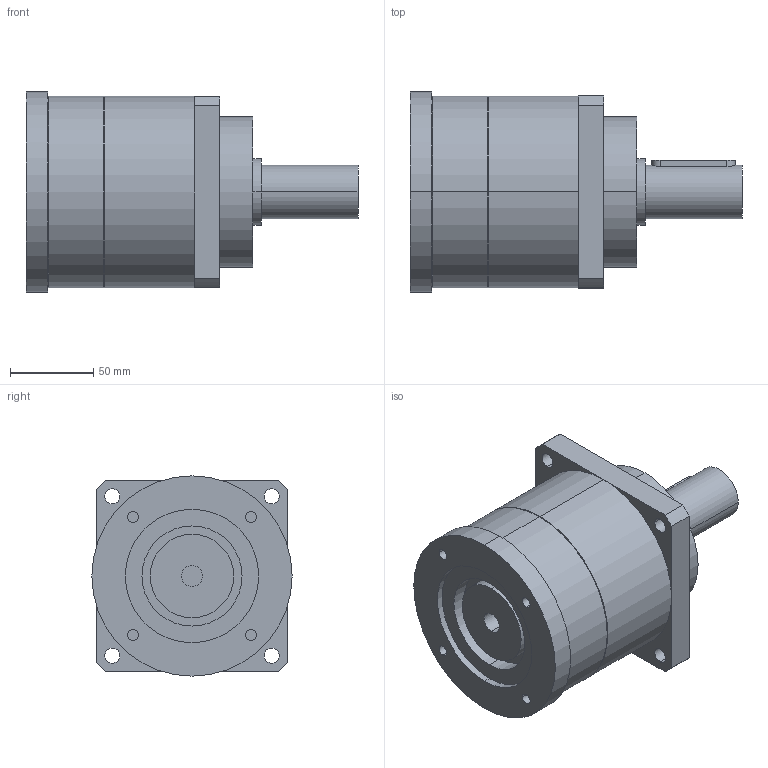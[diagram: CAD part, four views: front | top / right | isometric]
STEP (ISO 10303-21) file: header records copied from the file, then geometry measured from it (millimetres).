
FILE_DESCRIPTION(('CoCreate Modeling STEP Export'),'2;1');
FILE_NAME('GPT120_ig-3-4-5-7-10_32_B5A_12.7_P05.stp','2015-02-04T16:06:49',(''),(''),'CoCreate Modeling STEP processor for AP214 (Solid Model)','CoCreate Modeling 16.00C 25-Feb-2009 (C) Parametric Technology GmbH','');
FILE_SCHEMA(('AUTOMOTIVE_DESIGN { 1 0 10303 214 1 1 1 1 }'));
Length unit declared in the file: millimetre
Products named in the file (2): GPT120_ig-3-4-5-7-10_32_B5A_12.7_P05
Assembly tree (1 placements, depth 2):
  GPT120_ig-3-4-5-7-10_32_B5A_12.7_P05
    GPT120_ig-3-4-5-7-10_32_B5A_12.7_P05
Bounding box: 199 x 120 x 120 mm (x, y, z)
Volume: 1396450.4 mm3; surface area: 92713.2 mm2
Topology: 1 solids, 1 shells, 75 faces, 190 edges, 131 vertices
Faces by surface type: cylinder 44, plane 27, cone 4
Entity records: 2375 total; most frequent: CARTESIAN_POINT 724, ORIENTED_EDGE 380, DIRECTION 280, EDGE_CURVE 190, VERTEX_POINT 131, AXIS2_PLACEMENT_3D 105, EDGE_LOOP 97, FACE_OUTER_BOUND 75
